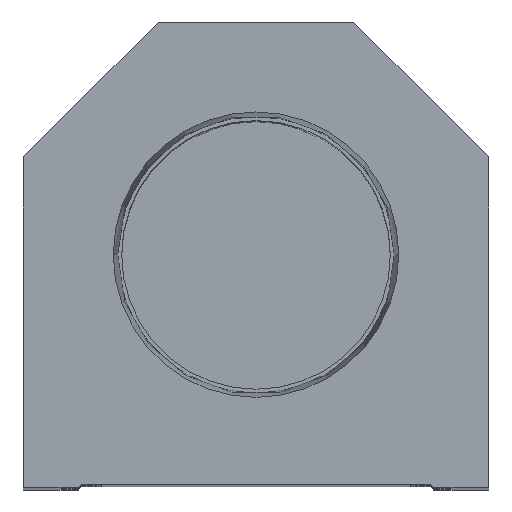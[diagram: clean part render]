
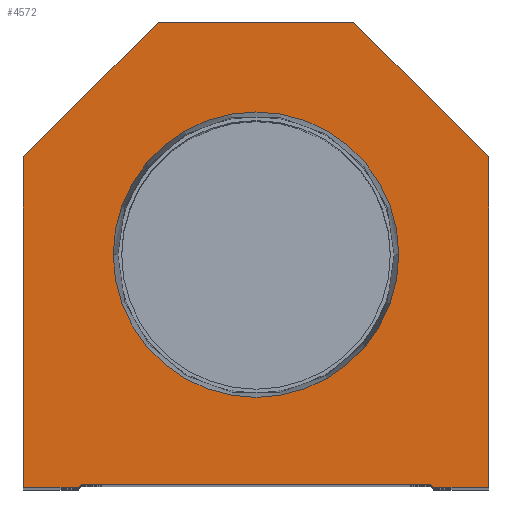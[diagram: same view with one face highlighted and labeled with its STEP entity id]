
A CAD part, top view. The second image highlights one B-rep face of the part: STEP entity #4572.
In plain terms, the highlighted planar face has unit normal (0, 0, 1).
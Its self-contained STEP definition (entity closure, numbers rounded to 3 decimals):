
#107 = CARTESIAN_POINT ( 'NONE',  ( -38.1, 54.1, 0. ) ) ;
#116 = CARTESIAN_POINT ( 'NONE',  ( 38.1, 54.1, 0. ) ) ;
#242 = DIRECTION ( 'NONE',  ( 0.707, -0.707, 0. ) ) ;
#356 = VERTEX_POINT ( 'NONE', #16520 ) ;
#661 = VERTEX_POINT ( 'NONE', #107 ) ;
#917 = VERTEX_POINT ( 'NONE', #15206 ) ;
#1230 = DIRECTION ( 'NONE',  ( 0., 1., 0. ) ) ;
#1256 = DIRECTION ( 'NONE',  ( 0., 0., 1. ) ) ;
#1266 = CARTESIAN_POINT ( 'NONE',  ( 23.374, 38.1, 0. ) ) ;
#1326 = VECTOR ( 'NONE', #2634, 1000. ) ;
#1343 = DIRECTION ( 'NONE',  ( 0., 0., 1. ) ) ;
#1405 = VECTOR ( 'NONE', #2118, 1000. ) ;
#1508 = DIRECTION ( 'NONE',  ( 1., 0., 0. ) ) ;
#1595 = CARTESIAN_POINT ( 'NONE',  ( -28.6, 0.5, 0. ) ) ;
#1815 = ORIENTED_EDGE ( 'NONE', *, *, #9419, .T. ) ;
#2073 = EDGE_LOOP ( 'NONE', ( #6038, #4905 ) ) ;
#2118 = DIRECTION ( 'NONE',  ( 1., 0., 0. ) ) ;
#2152 = CARTESIAN_POINT ( 'NONE',  ( 29.1, 0., 0. ) ) ;
#2166 = EDGE_CURVE ( 'NONE', #8786, #917, #3474, .T. ) ;
#2260 = VECTOR ( 'NONE', #9829, 1000. ) ;
#2531 = LINE ( 'NONE', #17518, #8153 ) ;
#2565 = EDGE_CURVE ( 'NONE', #9498, #17886, #2950, .T. ) ;
#2599 = VERTEX_POINT ( 'NONE', #11440 ) ;
#2611 = CARTESIAN_POINT ( 'NONE',  ( -38.1, 54.1, 0. ) ) ;
#2634 = DIRECTION ( 'NONE',  ( 0., -1., 0. ) ) ;
#2950 = LINE ( 'NONE', #1595, #8991 ) ;
#3410 = VECTOR ( 'NONE', #10781, 1000. ) ;
#3474 = CIRCLE ( 'NONE', #8398, 23.374 ) ;
#3788 = DIRECTION ( 'NONE',  ( -1., 0., 0. ) ) ;
#3804 = EDGE_CURVE ( 'NONE', #2599, #9498, #11841, .T. ) ;
#3825 = DIRECTION ( 'NONE',  ( 0., 0., 1. ) ) ;
#3896 = CARTESIAN_POINT ( 'NONE',  ( -14.55, 14.55, 0. ) ) ;
#3936 = CARTESIAN_POINT ( 'NONE',  ( 38.1, 0., 0. ) ) ;
#3947 = CARTESIAN_POINT ( 'NONE',  ( 38.1, 0., 0. ) ) ;
#4166 = ORIENTED_EDGE ( 'NONE', *, *, #17670, .T. ) ;
#4190 = EDGE_CURVE ( 'NONE', #917, #8786, #4224, .T. ) ;
#4224 = CIRCLE ( 'NONE', #16625, 23.374 ) ;
#4572 = ADVANCED_FACE ( 'NONE', ( #7623, #5100 ), #6525, .T. ) ;
#4905 = ORIENTED_EDGE ( 'NONE', *, *, #4190, .F. ) ;
#5100 = FACE_OUTER_BOUND ( 'NONE', #16202, .T. ) ;
#5198 = LINE ( 'NONE', #13258, #1405 ) ;
#5289 = LINE ( 'NONE', #3936, #17155 ) ;
#5340 = LINE ( 'NONE', #9528, #1326 ) ;
#5651 = VECTOR ( 'NONE', #242, 1000. ) ;
#5668 = DIRECTION ( 'NONE',  ( -0.707, -0.707, 0. ) ) ;
#5670 = DIRECTION ( 'NONE',  ( 1., 0., 0. ) ) ;
#5933 = LINE ( 'NONE', #6023, #7369 ) ;
#6023 = CARTESIAN_POINT ( 'NONE',  ( 28.6, 0., 0. ) ) ;
#6038 = ORIENTED_EDGE ( 'NONE', *, *, #2166, .F. ) ;
#6109 = VERTEX_POINT ( 'NONE', #2152 ) ;
#6525 = PLANE ( 'NONE',  #8430 ) ;
#6582 = DIRECTION ( 'NONE',  ( 1., 0., 0. ) ) ;
#6834 = LINE ( 'NONE', #116, #2260 ) ;
#6849 = CARTESIAN_POINT ( 'NONE',  ( 0., 38.1, 0. ) ) ;
#7369 = VECTOR ( 'NONE', #5670, 1000. ) ;
#7623 = FACE_BOUND ( 'NONE', #2073, .T. ) ;
#8153 = VECTOR ( 'NONE', #3788, 1000. ) ;
#8212 = CARTESIAN_POINT ( 'NONE',  ( 38.1, 54.1, 0. ) ) ;
#8319 = CARTESIAN_POINT ( 'NONE',  ( 14.55, 14.55, 0. ) ) ;
#8398 = AXIS2_PLACEMENT_3D ( 'NONE', #6849, #1256, #6582 ) ;
#8430 = AXIS2_PLACEMENT_3D ( 'NONE', #12045, #3825, #14499 ) ;
#8616 = ORIENTED_EDGE ( 'NONE', *, *, #12247, .T. ) ;
#8640 = VERTEX_POINT ( 'NONE', #16534 ) ;
#8786 = VERTEX_POINT ( 'NONE', #1266 ) ;
#8904 = VECTOR ( 'NONE', #5668, 1000. ) ;
#8991 = VECTOR ( 'NONE', #1508, 1000. ) ;
#9419 = EDGE_CURVE ( 'NONE', #11419, #11259, #5289, .T. ) ;
#9498 = VERTEX_POINT ( 'NONE', #12604 ) ;
#9528 = CARTESIAN_POINT ( 'NONE',  ( -38.1, 0., 0. ) ) ;
#9829 = DIRECTION ( 'NONE',  ( -0.707, 0.707, 0. ) ) ;
#10439 = ORIENTED_EDGE ( 'NONE', *, *, #2565, .T. ) ;
#10781 = DIRECTION ( 'NONE',  ( 0.707, 0.707, 0. ) ) ;
#10841 = CARTESIAN_POINT ( 'NONE',  ( 28.6, 0.5, 0. ) ) ;
#10849 = ORIENTED_EDGE ( 'NONE', *, *, #12599, .T. ) ;
#10908 = EDGE_CURVE ( 'NONE', #661, #11550, #5340, .T. ) ;
#11259 = VERTEX_POINT ( 'NONE', #8212 ) ;
#11419 = VERTEX_POINT ( 'NONE', #3947 ) ;
#11440 = CARTESIAN_POINT ( 'NONE',  ( -29.1, 0., 0. ) ) ;
#11550 = VERTEX_POINT ( 'NONE', #13430 ) ;
#11841 = LINE ( 'NONE', #3896, #3410 ) ;
#12045 = CARTESIAN_POINT ( 'NONE',  ( 0., 0., 0. ) ) ;
#12247 = EDGE_CURVE ( 'NONE', #356, #661, #12274, .T. ) ;
#12274 = LINE ( 'NONE', #2611, #8904 ) ;
#12443 = EDGE_CURVE ( 'NONE', #11259, #8640, #6834, .T. ) ;
#12533 = DIRECTION ( 'NONE',  ( 1., 0., 0. ) ) ;
#12599 = EDGE_CURVE ( 'NONE', #11550, #2599, #5198, .T. ) ;
#12604 = CARTESIAN_POINT ( 'NONE',  ( -28.6, 0.5, 0. ) ) ;
#12702 = ORIENTED_EDGE ( 'NONE', *, *, #16289, .T. ) ;
#13258 = CARTESIAN_POINT ( 'NONE',  ( -28.6, 0., 0. ) ) ;
#13430 = CARTESIAN_POINT ( 'NONE',  ( -38.1, 0., 0. ) ) ;
#14408 = EDGE_CURVE ( 'NONE', #8640, #356, #2531, .T. ) ;
#14499 = DIRECTION ( 'NONE',  ( 1., 0., 0. ) ) ;
#14717 = ORIENTED_EDGE ( 'NONE', *, *, #3804, .T. ) ;
#15206 = CARTESIAN_POINT ( 'NONE',  ( -23.374, 38.1, 0. ) ) ;
#15810 = ORIENTED_EDGE ( 'NONE', *, *, #12443, .T. ) ;
#16202 = EDGE_LOOP ( 'NONE', ( #10849, #14717, #10439, #4166, #12702, #1815, #15810, #16299, #8616, #16742 ) ) ;
#16289 = EDGE_CURVE ( 'NONE', #6109, #11419, #5933, .T. ) ;
#16299 = ORIENTED_EDGE ( 'NONE', *, *, #14408, .T. ) ;
#16420 = CARTESIAN_POINT ( 'NONE',  ( 0., 38.1, 0. ) ) ;
#16440 = LINE ( 'NONE', #8319, #5651 ) ;
#16520 = CARTESIAN_POINT ( 'NONE',  ( -16., 76.2, 0. ) ) ;
#16534 = CARTESIAN_POINT ( 'NONE',  ( 16., 76.2, 0. ) ) ;
#16625 = AXIS2_PLACEMENT_3D ( 'NONE', #16420, #1343, #12533 ) ;
#16742 = ORIENTED_EDGE ( 'NONE', *, *, #10908, .T. ) ;
#17155 = VECTOR ( 'NONE', #1230, 1000. ) ;
#17518 = CARTESIAN_POINT ( 'NONE',  ( 16., 76.2, 0. ) ) ;
#17670 = EDGE_CURVE ( 'NONE', #17886, #6109, #16440, .T. ) ;
#17886 = VERTEX_POINT ( 'NONE', #10841 ) ;
